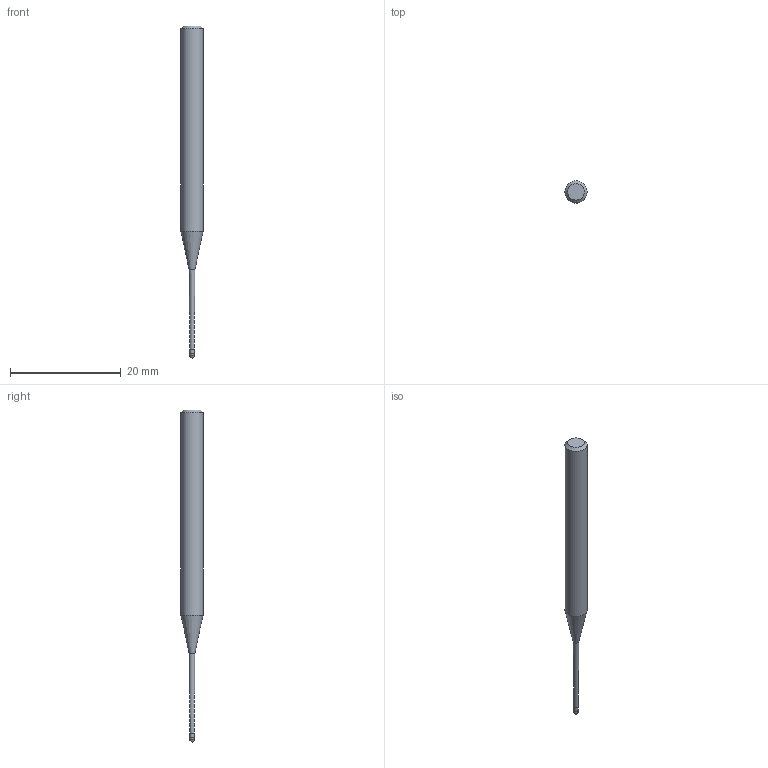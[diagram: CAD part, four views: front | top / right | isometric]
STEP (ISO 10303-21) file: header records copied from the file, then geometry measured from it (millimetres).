
FILE_DESCRIPTION((''),'2;1');
FILE_NAME('C:\Users\nsx150\AppData\Local\Temp\Mastercam 2021\SNAKH10GOD\TEMP.step','2021-10-21T13:31:50',(''),(''),'STEP Write','Mastercam 2021 ... CNC Software, Inc.','');
FILE_SCHEMA(('AUTOMOTIVE_DESIGN'));
Length unit declared in the file: millimetre
Products named in the file (1): None
Bounding box: 4 x 4 x 60 mm (x, y, z)
Volume: 513.3 mm3; surface area: 577 mm2
Topology: 2 solids, 2 shells, 10 faces, 16 edges, 9 vertices
Faces by surface type: plane 3, cylinder 3, cone 3, sphere 1
Full cylindrical faces by diameter (mm): 0.785 x1, 0.8 x1, 4 x1
Entity records: 232 total; most frequent: DIRECTION 40, CARTESIAN_POINT 28, AXIS2_PLACEMENT_3D 20, ORIENTED_EDGE 16, EDGE_LOOP 16, STYLED_ITEM 13, ADVANCED_FACE 10, FACE_BOUND 9
